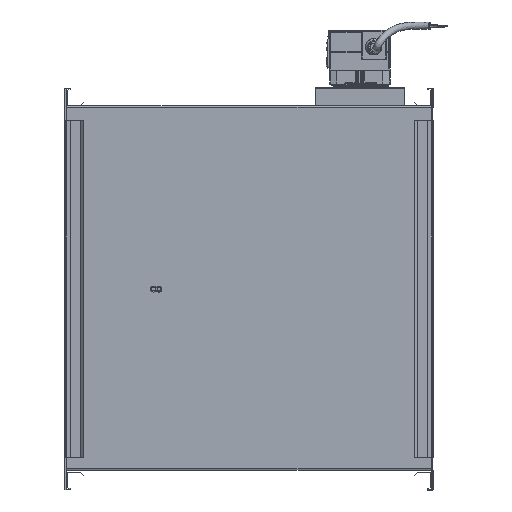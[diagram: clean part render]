
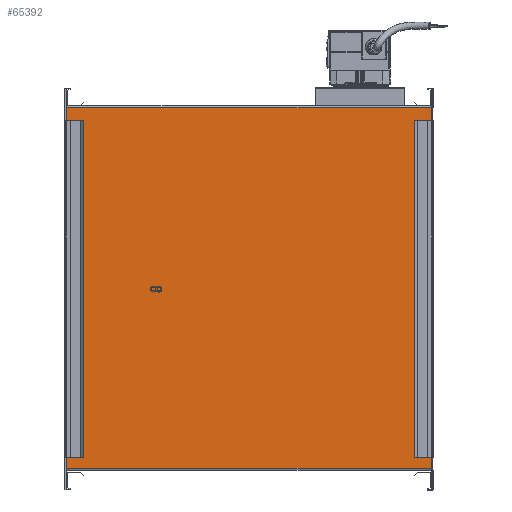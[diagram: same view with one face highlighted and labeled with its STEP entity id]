
A CAD part, front view. The second image highlights one B-rep face of the part: STEP entity #65392.
In plain terms, the highlighted planar face has unit normal (0, -1, 0).
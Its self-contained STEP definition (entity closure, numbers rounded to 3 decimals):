
#1478 = CARTESIAN_POINT ( 'NONE',  ( -244.423, -135.848, 902. ) ) ;
#3363 = LINE ( 'NONE', #1478, #56506 ) ;
#6031 = VERTEX_POINT ( 'NONE', #73497 ) ;
#6401 = EDGE_CURVE ( 'NONE', #6031, #18762, #21597, .T. ) ;
#9549 = DIRECTION ( 'NONE',  ( 0., 0., -1. ) ) ;
#14158 = CARTESIAN_POINT ( 'NONE',  ( -244.423, -135.848, 902. ) ) ;
#15681 = VECTOR ( 'NONE', #55789, 1000. ) ;
#16160 = ORIENTED_EDGE ( 'NONE', *, *, #75416, .F. ) ;
#18762 = VERTEX_POINT ( 'NONE', #67706 ) ;
#19376 = VERTEX_POINT ( 'NONE', #92639 ) ;
#21249 = CARTESIAN_POINT ( 'NONE',  ( -244.423, -135.848, 1298. ) ) ;
#21597 = LINE ( 'NONE', #36268, #15681 ) ;
#27116 = DIRECTION ( 'NONE',  ( 0., -1., 0. ) ) ;
#29027 = VECTOR ( 'NONE', #67637, 1000. ) ;
#33110 = LINE ( 'NONE', #21249, #74380 ) ;
#33753 = FACE_OUTER_BOUND ( 'NONE', #34696, .T. ) ;
#34696 = EDGE_LOOP ( 'NONE', ( #92513, #16160, #78388, #92426 ) ) ;
#36268 = CARTESIAN_POINT ( 'NONE',  ( 155.577, -135.848, 902. ) ) ;
#41299 = EDGE_CURVE ( 'NONE', #85128, #18762, #57782, .T. ) ;
#42592 = DIRECTION ( 'NONE',  ( 1., 0., 0. ) ) ;
#46289 = CARTESIAN_POINT ( 'NONE',  ( -244.423, -135.848, 902. ) ) ;
#49877 = CARTESIAN_POINT ( 'NONE',  ( -244.423, -135.848, 902. ) ) ;
#55789 = DIRECTION ( 'NONE',  ( 0., 0., -1. ) ) ;
#56506 = VECTOR ( 'NONE', #9549, 1000. ) ;
#57782 = LINE ( 'NONE', #14158, #29027 ) ;
#65392 = ADVANCED_FACE ( 'NONE', ( #33753 ), #85532, .T. ) ;
#67637 = DIRECTION ( 'NONE',  ( 1., 0., 0. ) ) ;
#67706 = CARTESIAN_POINT ( 'NONE',  ( 155.577, -135.848, 902. ) ) ;
#73497 = CARTESIAN_POINT ( 'NONE',  ( 155.577, -135.848, 1298. ) ) ;
#74380 = VECTOR ( 'NONE', #42592, 1000. ) ;
#75416 = EDGE_CURVE ( 'NONE', #19376, #6031, #33110, .T. ) ;
#78388 = ORIENTED_EDGE ( 'NONE', *, *, #79548, .T. ) ;
#79548 = EDGE_CURVE ( 'NONE', #19376, #85128, #3363, .T. ) ;
#85128 = VERTEX_POINT ( 'NONE', #46289 ) ;
#85532 = PLANE ( 'NONE',  #90241 ) ;
#90241 = AXIS2_PLACEMENT_3D ( 'NONE', #49877, #27116, #92636 ) ;
#92426 = ORIENTED_EDGE ( 'NONE', *, *, #41299, .T. ) ;
#92513 = ORIENTED_EDGE ( 'NONE', *, *, #6401, .F. ) ;
#92636 = DIRECTION ( 'NONE',  ( 0., 0., -1. ) ) ;
#92639 = CARTESIAN_POINT ( 'NONE',  ( -244.423, -135.848, 1298. ) ) ;
